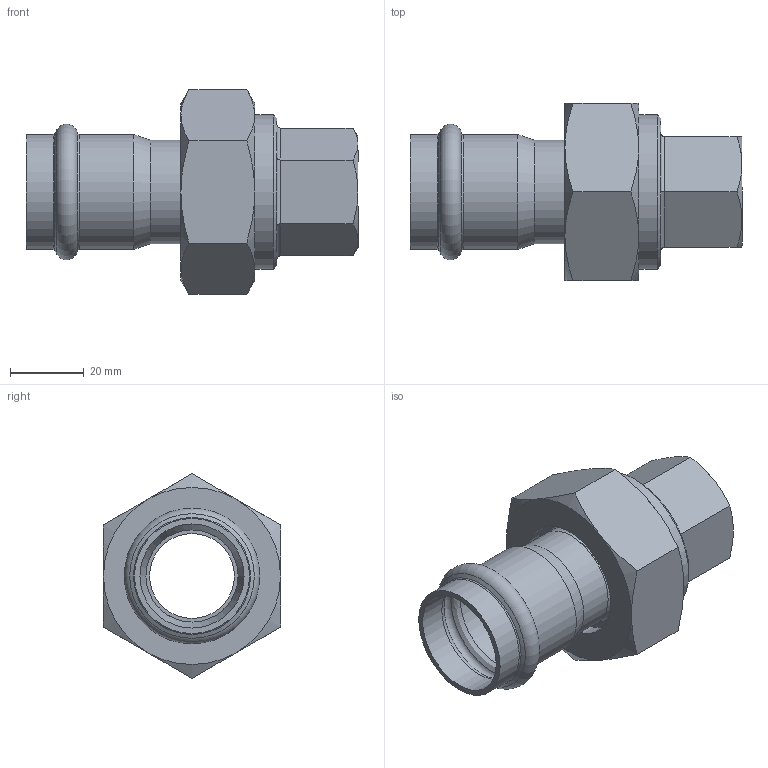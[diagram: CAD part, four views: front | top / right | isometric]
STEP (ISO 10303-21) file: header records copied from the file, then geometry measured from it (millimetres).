
FILE_DESCRIPTION((''),'2;1');
FILE_NAME('G:\Nirosan-Schmiedefeld\Technics\CAD\Bauteile VA\028\69330G2834(3).stp','2011-06-29T10:18:28',('herberg'),(''),'Autodesk Inventor 2009','Autodesk Inventor 2009','');
FILE_SCHEMA(('AUTOMOTIVE_DESIGN { 1 0 10303 214 1 1 1 1 }'));
Length unit declared in the file: millimetre
Products named in the file (7): 69330G2834(3); 69359mms28114(1); HM_6924328(1); R28114(0); FD_3827_EPDM(0); MS_SM28114(2); 69370G11434(1)
Assembly tree (6 placements, depth 3):
  69330G2834(3)
    69359mms28114(1)
      HM_6924328(1)
      R28114(0)
      FD_3827_EPDM(0)
      MS_SM28114(2)
    69370G11434(1)
Bounding box: 90 x 48 x 55.43 mm (x, y, z)
Volume: 46703.5 mm3; surface area: 29751.6 mm2
Topology: 5 solids, 5 shells, 84 faces, 166 edges, 97 vertices
Faces by surface type: cone 27, plane 24, cylinder 18, bspline 13, torus 2
Full cylindrical faces by diameter (mm): 25 x2, 27 x1, 28 x2, 28.2 x2, 31.2 x2, 38 x2, 41.91 x1
Entity records: 2408 total; most frequent: CARTESIAN_POINT 707, DIRECTION 332, ORIENTED_EDGE 260, AXIS2_PLACEMENT_3D 154, EDGE_LOOP 132, EDGE_CURVE 130, VERTEX_POINT 94, FACE_OUTER_BOUND 84
